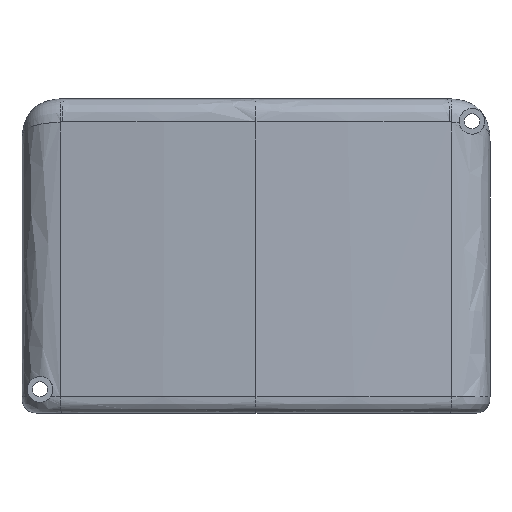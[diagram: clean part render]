
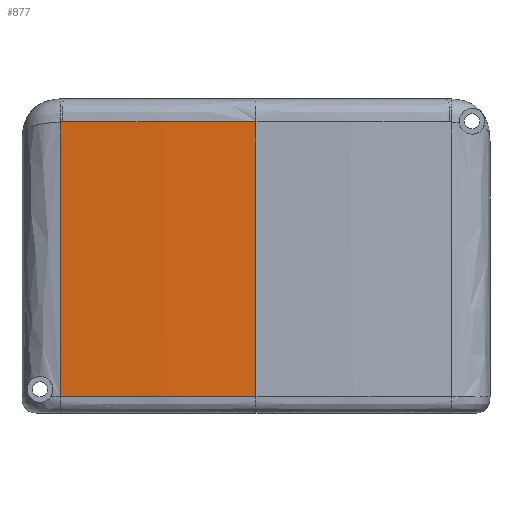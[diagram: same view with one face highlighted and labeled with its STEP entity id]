
A CAD part, front view. The second image highlights one B-rep face of the part: STEP entity #877.
In plain terms, the highlighted free-form (B-spline) face has degree [3, 1] with [4, 2] control points.
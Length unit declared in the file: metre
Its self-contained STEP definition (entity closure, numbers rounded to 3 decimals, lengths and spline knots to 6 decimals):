
#33=B_SPLINE_CURVE_WITH_KNOTS('',3,(#1236,#1237,#1238,#1239),
 .UNSPECIFIED.,.F.,.F.,(4,4),(0.,1.),.UNSPECIFIED.);
#63=B_SPLINE_CURVE_WITH_KNOTS('',3,(#2445,#2446,#2447,#2448),
 .UNSPECIFIED.,.F.,.F.,(4,4),(0.,1.),.UNSPECIFIED.);
#64=B_SPLINE_CURVE_WITH_KNOTS('',3,(#2452,#2453,#2454,#2455),
 .UNSPECIFIED.,.F.,.F.,(4,4),(0.,0.826979),.UNSPECIFIED.);
#65=B_SPLINE_CURVE_WITH_KNOTS('',3,(#2457,#2458,#2459,#2460),
 .UNSPECIFIED.,.F.,.F.,(4,4),(0.826979,0.836436),
 .UNSPECIFIED.);
#102=B_SPLINE_SURFACE_WITH_KNOTS('',3,1,((#2437,#2438),(#2439,#2440),(#2441,
#2442),(#2443,#2444)),.SURF_OF_LINEAR_EXTRUSION.,.F.,.F.,.F.,(4,4),(2,2),
(0.5,0.740469),(0.,1.),.PIECEWISE_BEZIER_KNOTS.);
#210=ORIENTED_EDGE('',*,*,#415,.T.);
#211=ORIENTED_EDGE('',*,*,#456,.T.);
#212=ORIENTED_EDGE('',*,*,#457,.F.);
#213=ORIENTED_EDGE('',*,*,#458,.T.);
#214=ORIENTED_EDGE('',*,*,#459,.T.);
#415=EDGE_CURVE('',#541,#540,#33,.F.);
#456=EDGE_CURVE('',#540,#576,#63,.T.);
#457=EDGE_CURVE('',#577,#576,#629,.T.);
#458=EDGE_CURVE('',#577,#578,#64,.T.);
#459=EDGE_CURVE('',#578,#541,#65,.T.);
#540=VERTEX_POINT('',#1235);
#541=VERTEX_POINT('',#1240);
#576=VERTEX_POINT('',#2449);
#577=VERTEX_POINT('',#2451);
#578=VERTEX_POINT('',#2456);
#629=LINE('',#2450,#659);
#659=VECTOR('',#1054,1.);
#684=EDGE_LOOP('',(#210,#211,#212,#213,#214));
#770=FACE_BOUND('',#684,.T.);
#877=ADVANCED_FACE('',(#770),#102,.T.);
#1054=DIRECTION('',(0.,0.,-1.));
#1235=CARTESIAN_POINT('',(-0.059431,-0.016959,0.005));
#1236=CARTESIAN_POINT('',(-0.059431,-0.016959,0.005));
#1237=CARTESIAN_POINT('',(-0.059431,-0.016959,0.032665));
#1238=CARTESIAN_POINT('',(-0.059431,-0.016959,0.060329));
#1239=CARTESIAN_POINT('',(-0.059431,-0.016959,0.087994));
#1240=CARTESIAN_POINT('',(-0.059431,-0.016959,0.087994));
#2437=CARTESIAN_POINT('',(-0.000295,-0.020592,0.088));
#2438=CARTESIAN_POINT('',(-0.000295,-0.020592,0.005));
#2439=CARTESIAN_POINT('',(-0.020007,-0.020592,0.088));
#2440=CARTESIAN_POINT('',(-0.020007,-0.020592,0.005));
#2441=CARTESIAN_POINT('',(-0.039719,-0.01915,0.088));
#2442=CARTESIAN_POINT('',(-0.039719,-0.01915,0.005));
#2443=CARTESIAN_POINT('',(-0.059431,-0.016959,0.088));
#2444=CARTESIAN_POINT('',(-0.059431,-0.016959,0.005));
#2445=CARTESIAN_POINT('',(-0.059431,-0.016959,0.005));
#2446=CARTESIAN_POINT('',(-0.039719,-0.01915,0.005));
#2447=CARTESIAN_POINT('',(-0.020007,-0.020592,0.005));
#2448=CARTESIAN_POINT('',(-0.000295,-0.020592,0.005));
#2449=CARTESIAN_POINT('',(-0.000295,-0.020592,0.005));
#2450=CARTESIAN_POINT('',(-0.000295,-0.020592,0.095));
#2451=CARTESIAN_POINT('',(-0.000295,-0.020592,0.088));
#2452=CARTESIAN_POINT('',(-0.000295,-0.020592,0.088));
#2453=CARTESIAN_POINT('',(-0.019785,-0.020592,0.088));
#2454=CARTESIAN_POINT('',(-0.039274,-0.019182,0.088));
#2455=CARTESIAN_POINT('',(-0.058763,-0.017033,0.088));
#2456=CARTESIAN_POINT('',(-0.058763,-0.017033,0.088));
#2457=CARTESIAN_POINT('',(-0.058763,-0.017033,0.088));
#2458=CARTESIAN_POINT('',(-0.058986,-0.017009,0.088));
#2459=CARTESIAN_POINT('',(-0.059209,-0.016984,0.088));
#2460=CARTESIAN_POINT('',(-0.059431,-0.016959,0.088));
